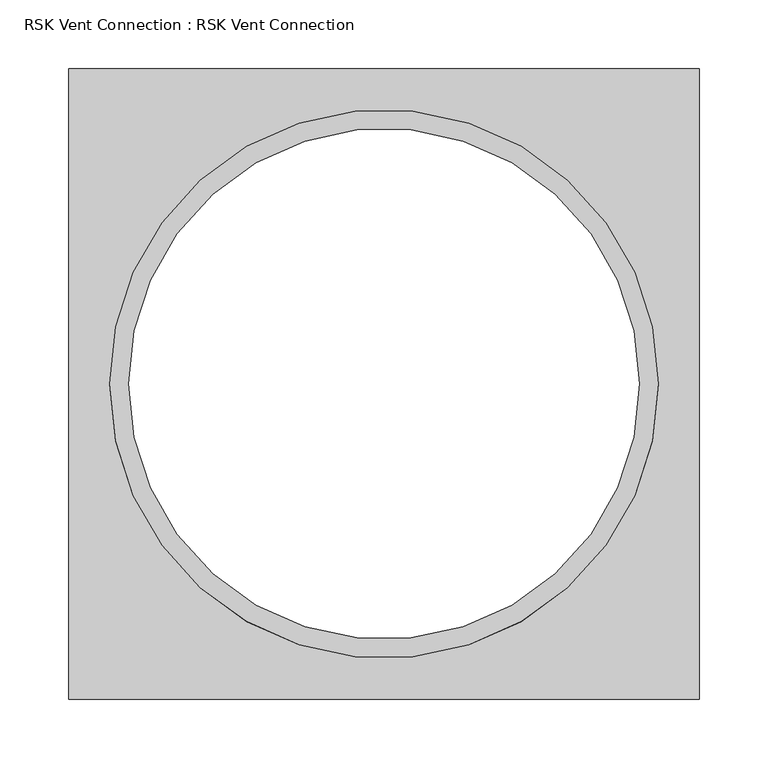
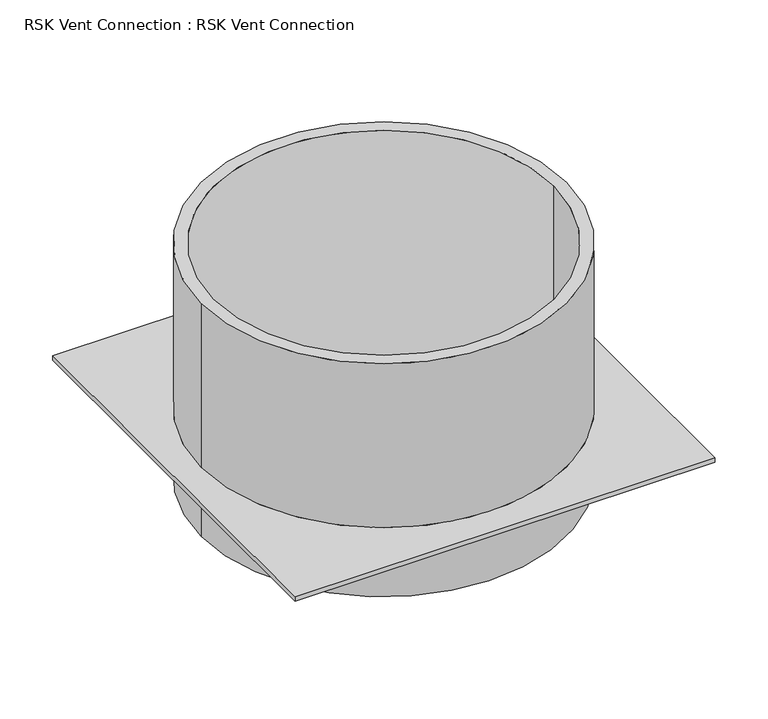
"""IFC4 building model written with IfcOpenShell, lengths in millimetres: proxy geometry, RSK Vent Connection : RSK Vent Connection."""

from ifc_helpers import new_model, si_unit, frame, origin, place, context, project, spatial, polyline, circle_curve, source, transform, mapped, element, save
from ifc_brep_helpers import plane_surface, cylinder_surface, revolved_surface, advanced_brep


def rsk_vent_connection_rsk_vent_connection_fdabcf2f(model_context):
    return source(origin(), model_context, "Body", "AdvancedBrep", [
        advanced_brep(
        [(230.0, -230.0, 5.0), (230.0, 230.0, 5.0), (-230.0, 230.0, 5.0), (-230.0, -230.0, 5.0), (-200.0, 0.0, 5.0), (200.0, 0.0, 5.0), (230.0, -230.0, 0.0), (-230.0, -230.0, 0.0), (-230.0, 230.0, 0.0), (230.0, 230.0, 0.0), (200.0, 0.0, 0.0), (-200.0, 0.0, 0.0), (200.0, 0.0, 195.0), (-200.0, 0.0, 195.0), (186.25, 0.0, 195.0), (-186.25, 0.0, 195.0), (200.0, 0.0, -75.0), (-200.0, 0.0, -75.0), (186.25, 0.0, -75.0), (-186.25, 0.0, -75.0)],
        [
            (0, 1),
            (1, 2),
            (2, 3),
            (3, 0),
            (4, 5, circle_curve(frame((0.0, 0.0, 5.0), z_axis=(0.0, 0.0, -1.0), x_axis=(-1.0, 0.0, 0.0)), 200.0)),
            (5, 4, circle_curve(frame((0.0, 0.0, 5.0), z_axis=(0.0, 0.0, -1.0), x_axis=(-1.0, 0.0, 0.0)), 200.0)),
            (6, 7),
            (7, 8),
            (8, 9),
            (9, 6),
            (10, 11, circle_curve(frame((0.0, 0.0, 0.0), z_axis=(0.0, 0.0, 1.0), x_axis=(-1.0, 0.0, 0.0)), 200.0)),
            (11, 10, circle_curve(frame((0.0, 0.0, 0.0), z_axis=(0.0, 0.0, 1.0), x_axis=(-1.0, 0.0, 0.0)), 200.0)),
            (0, 6),
            (9, 1),
            (8, 2),
            (7, 3),
            (12, 13, circle_curve(frame((0.0, 0.0, 195.0), z_axis=(0.0, 0.0, 1.0), x_axis=(-1.0, 0.0, 0.0)), 200.0)),
            (13, 12, circle_curve(frame((0.0, 0.0, 195.0), z_axis=(0.0, 0.0, 1.0), x_axis=(-1.0, 0.0, 0.0)), 200.0)),
            (14, 15, circle_curve(frame((0.0, 0.0, 195.0), z_axis=(0.0, 0.0, -1.0), x_axis=(-1.0, 0.0, 0.0)), 186.25)),
            (15, 14, circle_curve(frame((0.0, 0.0, 195.0), z_axis=(0.0, 0.0, -1.0), x_axis=(-1.0, 0.0, 0.0)), 186.25)),
            (16, 17, circle_curve(frame((0.0, 0.0, -75.0), z_axis=(0.0, 0.0, -1.0), x_axis=(-1.0, 0.0, 0.0)), 200.0)),
            (17, 16, circle_curve(frame((0.0, 0.0, -75.0), z_axis=(0.0, 0.0, -1.0), x_axis=(-1.0, 0.0, 0.0)), 200.0)),
            (18, 19, circle_curve(frame((0.0, 0.0, -75.0), z_axis=(0.0, 0.0, 1.0), x_axis=(-1.0, 0.0, 0.0)), 186.25)),
            (19, 18, circle_curve(frame((0.0, 0.0, -75.0), z_axis=(0.0, 0.0, 1.0), x_axis=(-1.0, 0.0, 0.0)), 186.25)),
            (12, 5),
            (4, 13),
            (17, 11),
            (10, 16),
            (14, 18),
            (19, 15),
        ],
        [
            plane_surface(frame((230.0, -230.0, 5.0), z_axis=(0.0, 0.0, 1.0), x_axis=(0.0, 1.0, 0.0))),
            plane_surface(frame((230.0, -230.0, 0.0), z_axis=(0.0, 0.0, -1.0), x_axis=(0.0, -1.0, 0.0))),
            plane_surface(frame((230.0, -230.0, 5.0), z_axis=(1.0, 0.0, 0.0), x_axis=(0.0, 0.0, -1.0))),
            plane_surface(frame((230.0, 230.0, 5.0), z_axis=(0.0, 1.0, 0.0), x_axis=(0.0, 0.0, -1.0))),
            plane_surface(frame((-230.0, 230.0, 5.0), z_axis=(-1.0, 0.0, 0.0), x_axis=(0.0, 0.0, -1.0))),
            plane_surface(frame((-230.0, -230.0, 5.0), z_axis=(0.0, -1.0, 0.0), x_axis=(0.0, 0.0, -1.0))),
            plane_surface(frame((-200.0, 0.0, 195.0), z_axis=(0.0, 0.0, 1.0), x_axis=(0.0, -1.0, 0.0))),
            plane_surface(frame((-200.0, 0.0, -75.0), z_axis=(0.0, 0.0, -1.0), x_axis=(0.0, 1.0, 0.0))),
            cylinder_surface(frame((0.0, 0.0, -75.0), z_axis=(0.0, 0.0, 1.0), x_axis=(-1.0, 0.0, 0.0)), 200.0),
            revolved_surface(polyline([(-186.25, 0.0, -75.0), (-186.25, 0.0, 195.0)]), (0.0, 0.0, -75.0), (0.0, 0.0, -1.0)),
        ],
        [
            (0, [[1, 2, 3, 4], [5, 6]]),
            (1, [[7, 8, 9, 10], [11, 12]]),
            (2, [[-1, 13, -10, 14]]),
            (3, [[-2, -14, -9, 15]]),
            (4, [[-3, -15, -8, 16]]),
            (5, [[-4, -16, -7, -13]]),
            (6, [[17, 18], [19, 20]]),
            (7, [[21, 22], [23, 24]]),
            (8, [[-17, 25, -5, 26]]),
            (8, [[-22, 27, -11, 28]]),
            (8, [[-18, -26, -6, -25]]),
            (8, [[-21, -28, -12, -27]]),
            (9, [[-19, 29, -24, 30]]),
            (9, [[-20, -30, -23, -29]]),
        ],
    ),
    ])


if __name__ == "__main__":
    model = new_model("IFC4")
    model_context = context("Model", 3, world=origin())
    ifc_project = project(units=[si_unit("LENGTHUNIT", "METRE", prefix="MILLI")], contexts=[model_context])
    site = spatial("IfcSite", under=ifc_project)
    building = spatial("IfcBuilding", under=site)
    placement = place(None, origin())
    rsk_vent_connection_rsk_vent_connection_shape = rsk_vent_connection_rsk_vent_connection_fdabcf2f(model_context)
    element("IfcBuildingElementProxy", 1, Name="RSK Vent Connection : RSK Vent Connection", ObjectType="RSK Vent Connection : RSK Vent Connection", at=placement, inside=building, context=model_context, shape_type="MappedRepresentation", body=[
        mapped(rsk_vent_connection_rsk_vent_connection_shape, transform((0.0, 0.0, 0.0), x_axis=(1.0, 0.0, 0.0), y_axis=(0.0, 1.0, 0.0), z_axis=(0.0, 0.0, 1.0))),
    ])
    save(model, "model.ifc")
